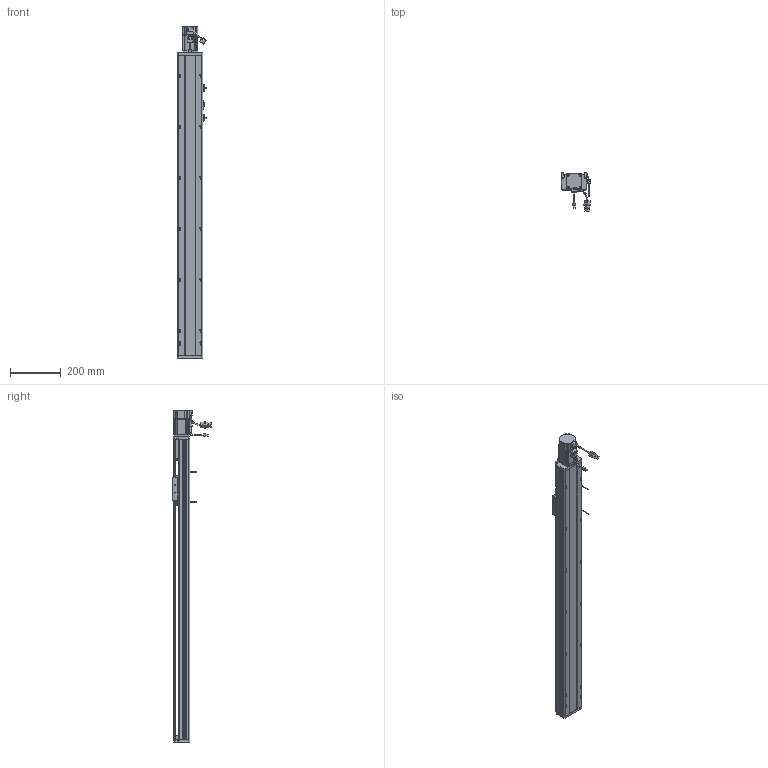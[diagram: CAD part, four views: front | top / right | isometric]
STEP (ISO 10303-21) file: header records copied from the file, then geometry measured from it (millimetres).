
FILE_DESCRIPTION (( 'STEP AP214' ), '1' );
FILE_NAME ('CTH10-950.STEP', '2019-11-18T08:21:14', ( '微软用户' ), ( '微软中国' ), 'SwSTEP 2.0', 'SolidWorks 2017', '' );
FILE_SCHEMA (( 'AUTOMOTIVE_DESIGN' ));
Length unit declared in the file: millimetre
Products named in the file (34): CTH10-底座_默认<按加工>; M5-L20囀鞠褒蹟佪; CTH10粣創釱蚾饜极; CTH10-950; M3-L10囀鞠褒蹟佪; M4-L8囀鞠褒蹟佪; 坶踡蹟譫; COL12B-粣遠; 粣創揤啣; 噩砃MGN12C-2R420-Z0CHC; 7001-DF; 噩砃MGN12C-R1; BEARING_BaseModel20190604090351; 噩砃MGN12C; CTH10-粣創釱; 噩砃M3-L10囀鞠褒蹟佪; 怢湛200W侜督萇儂ECMA-CX0602ES; MGN12C-2R420-Z0CHC; CTH10-盖板_默认<按加工>; MGN12C-R1; SFH1605; MGN12C; SFH1605-288; 100耀郪-覜茼んえ; CTH10-侜督萇儂啣; M3-L8囀鞠褒蹟佪; CTH10-傷啣; EE-SX672; CTH10-盓傅釱; M4-L6半圆头内六角螺丝; CTH10-蹟簽蟀諉啣; 6000Z粣創; CTH10-移动座_默认<按加工>; 遣喳蝶15x12x8
Assembly tree (100 placements, depth 4):
  CTH10-950
    CTH10-底座_默认<按加工>
    CTH10-移动座_默认<按加工>
    CTH10-蹟簽蟀諉啣
    CTH10-盓傅釱
    CTH10-傷啣
    CTH10-侜督萇儂啣
    SFH1605-288
    SFH1605
    CTH10-盖板_默认<按加工>
    怢湛200W侜督萇儂ECMA-CX0602ES
    CTH10粣創釱蚾饜极
      CTH10-粣創釱
      7001-DF
        BEARING_BaseModel20190604090351  x2
      粣創揤啣
      COL12B-粣遠  x2
      坶踡蹟譫
      M4-L8囀鞠褒蹟佪  x4
      M3-L10囀鞠褒蹟佪  x6
    M3-L10囀鞠褒蹟佪  x19
    M5-L20囀鞠褒蹟佪  x4
    遣喳蝶15x12x8  x3
    6000Z粣創
    M4-L6半圆头内六角螺丝  x4
    M4-L8囀鞠褒蹟佪  x8
    EE-SX672  x2
    M3-L8囀鞠褒蹟佪  x4
    100耀郪-覜茼んえ
    MGN12C-2R420-Z0CHC
      MGN12C
      MGN12C-R1  x2
      M3-L10囀鞠褒蹟佪  x8
    噩砃M3-L10囀鞠褒蹟佪
    噩砃MGN12C-2R420-Z0CHC
      噩砃MGN12C
      噩砃MGN12C-R1  x2
      噩砃M3-L10囀鞠褒蹟佪  x8
Bounding box: 114.24 x 151.37 x 1302 mm (x, y, z)
Volume: 3218944.5 mm3; surface area: 1214861.2 mm2
Topology: 96 solids, 105 shells, 4797 faces, 12202 edges, 7626 vertices
Faces by surface type: plane 2366, cylinder 1544, cone 601, bspline 241, torus 33, sphere 12
Entity records: 104590 total; most frequent: CARTESIAN_POINT 31634, ORIENTED_EDGE 14908, DIRECTION 14329, EDGE_CURVE 7454, AXIS2_PLACEMENT_3D 5162, VERTEX_POINT 4840, LINE 4005, VECTOR 4005
